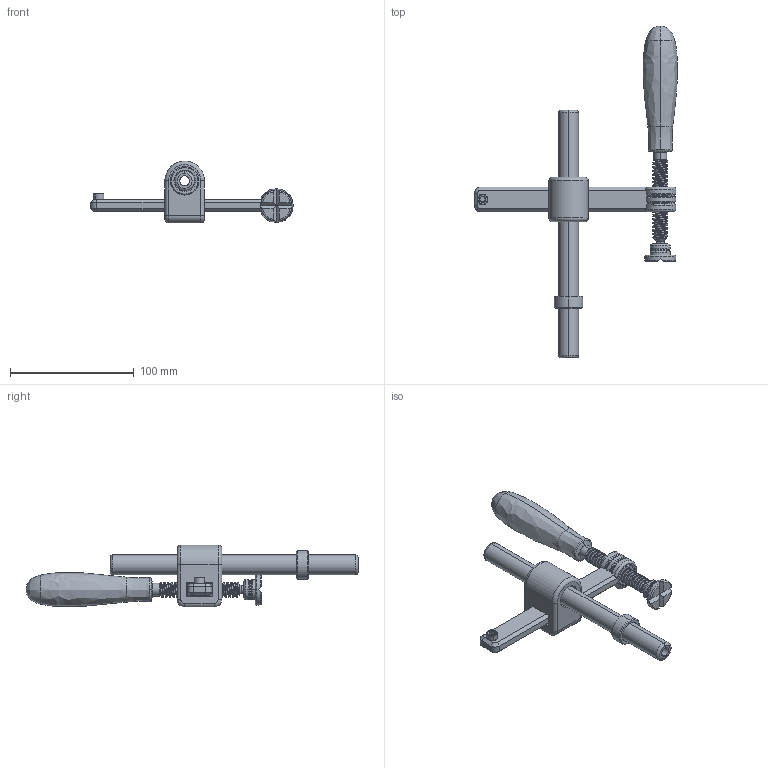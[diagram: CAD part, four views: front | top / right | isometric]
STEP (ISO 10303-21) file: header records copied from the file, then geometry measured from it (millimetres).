
FILE_DESCRIPTION (( 'STEP AP203' ), '1' );
FILE_NAME ('160601.step', '2014-08-11T16:17:34', ( 'User' ), ( '' ), 'SwSTEP 2.0', 'SolidWorks 2014', '' );
FILE_SCHEMA (( 'CONFIG_CONTROL_DESIGN' ));
Length unit declared in the file: millimetre
Products named in the file (18): 160643 Hor_Strebe mit Spindel^160601_Detailliert; 160618.1 Gewindebuchse Tr 12x3 Zwinge_Foto^160618.1 Gewindebuchse Tr12x3_Foto_Detailliert; 160653 Stellring_Foto^160653 Stellring_Foto_160601_Detailliert; 160618.1 Gewindebuchse Tr12x3_Foto_Detailliert; O-Ring^160653 Stellring_Foto_160601; Spindel^160634.3 Gewindespindel Tr 12x3_75_Foto_Detailliert; 160653 Stellring_Foto^160601_Detailliert; 160634 Griff_2012_Detailliert; 160642 Vertikalrohr 160601_Foto_Detailliert; 160601; 160634.3 Gewindespindel Tr 12x3_75_Foto_Detailliert; 160617.4 Gusskreuz flach rund für 160601_Foto_Detailliert; Prisma^160656 Prisma Tr12x3_Foto_Detailliert; 160643 Horizontalstrebe_Foto^160643 Horizontalstrebe_Foto_160643 Hor_Strebe mit Spindel_160601_Detailliert; O-Ring^160656 Prisma Tr12x3_Foto; Zylinderschraube M5_Detailliert; 160656 Prisma Tr12x3_Foto_Detailliert; 160643 Horizontalstrebe_Foto^160643 Hor_Strebe mit Spindel_160601_Detailliert
Assembly tree (17 placements, depth 4):
  160601
    160642 Vertikalrohr 160601_Foto_Detailliert
    160617.4 Gusskreuz flach rund für 160601_Foto_Detailliert
    160643 Hor_Strebe mit Spindel^160601_Detailliert
      160643 Horizontalstrebe_Foto^160643 Hor_Strebe mit Spindel_160601_Detailliert
        160643 Horizontalstrebe_Foto^160643 Horizontalstrebe_Foto_160643 Hor_Strebe mit Spindel_160601_Detailliert
        Zylinderschraube M5_Detailliert
      160618.1 Gewindebuchse Tr12x3_Foto_Detailliert
        160618.1 Gewindebuchse Tr 12x3 Zwinge_Foto^160618.1 Gewindebuchse Tr12x3_Foto_Detailliert
      160634.3 Gewindespindel Tr 12x3_75_Foto_Detailliert
        Spindel^160634.3 Gewindespindel Tr 12x3_75_Foto_Detailliert
        160634 Griff_2012_Detailliert
      160656 Prisma Tr12x3_Foto_Detailliert
        Prisma^160656 Prisma Tr12x3_Foto_Detailliert
        O-Ring^160656 Prisma Tr12x3_Foto
    160653 Stellring_Foto^160601_Detailliert
      160653 Stellring_Foto^160653 Stellring_Foto_160601_Detailliert
      O-Ring^160653 Stellring_Foto_160601
Bounding box: 163.82 x 268.05 x 50 mm (x, y, z)
Volume: 155988.9 mm3; surface area: 73236.7 mm2
Topology: 12 solids, 12 shells, 363 faces, 861 edges, 534 vertices
Faces by surface type: cylinder 126, plane 110, torus 56, cone 52, bspline 15, sphere 4
Entity records: 17538 total; most frequent: CARTESIAN_POINT 7414, DIRECTION 1795, ORIENTED_EDGE 1708, EDGE_CURVE 854, AXIS2_PLACEMENT_3D 733, VERTEX_POINT 531, EDGE_LOOP 399, ADVANCED_FACE 363
